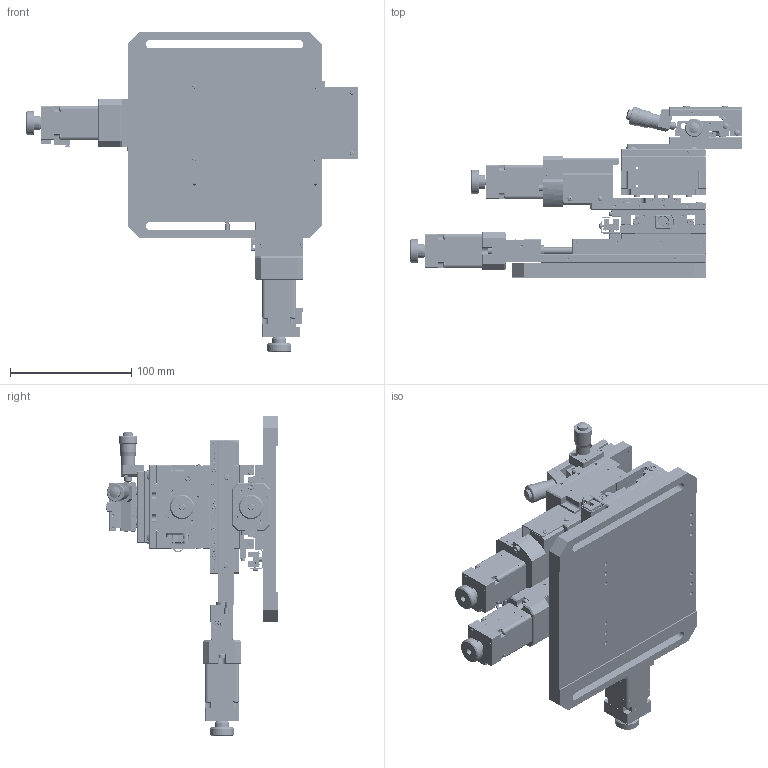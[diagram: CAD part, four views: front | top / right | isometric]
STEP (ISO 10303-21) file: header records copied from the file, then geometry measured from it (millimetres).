
FILE_DESCRIPTION (( 'STEP AP203' ), '1' );
FILE_NAME ('EW10-STL05.STEP', '2024-08-28T05:04:09', ( '' ), ( '' ), 'SwSTEP 2.0', 'SolidWorks 2017', '' );
FILE_SCHEMA (( 'CONFIG_CONTROL_DESIGN' ));
Length unit declared in the file: millimetre
Products named in the file (97): EW10-STL05-prt22; EW10-STL05-prt90; EW10-STL05-prt86; EW10-STL05-prt64; EW10-STL05-prt0; EW10-STL05-prt72; EW10-STL05-prt25; EW10-STL05-prt78; EW10-STL05-prt12; EW10-STL05-prt83; EW10-STL05-prt63; EW10-STL05-prt71; EW10-STL05-prt30; EW10-STL05-prt79; EW10-STL05-prt88; EW10-STL05-prt21; EW10-STL05-prt81; EW10-STL05-prt10; EW10-STL05-prt50; EW10-STL05-prt2; EW10-STL05-prt91; EW10-STL05-prt59; EW10-STL05-prt93; EW10-STL05-prt41; EW10-STL05-prt33; EW10-STL05-prt19; EW10-STL05-prt14; EW10-STL05-prt8; EW10-STL05-prt89; EW10-STL05-prt49; EW10-STL05-prt35; EW10-STL05-prt52; EW10-STL05-prt3; EW10-STL05-prt69; EW10-STL05-prt60; EW10-STL05-prt29; EW10-STL05-prt32; EW10-STL05-prt94; EW10-STL05-prt61; EW10-STL05-prt34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
Assembly tree (96 placements, depth 2):
  EW10-STL05
    EW10-STL05-prt0
    EW10-STL05-prt1
    EW10-STL05-prt2
    EW10-STL05-prt3
    EW10-STL05-prt4
    EW10-STL05-prt5
    EW10-STL05-prt6
    EW10-STL05-prt7
    EW10-STL05-prt8
    EW10-STL05-prt9
    EW10-STL05-prt10
    EW10-STL05-prt11
    EW10-STL05-prt12
    EW10-STL05-prt13
    EW10-STL05-prt14
    EW10-STL05-prt15
    EW10-STL05-prt16
    EW10-STL05-prt17
    EW10-STL05-prt18
    EW10-STL05-prt19
    EW10-STL05-prt20
    EW10-STL05-prt21
    EW10-STL05-prt22
    EW10-STL05-prt23
    EW10-STL05-prt24
    EW10-STL05-prt25
    EW10-STL05-prt26
    EW10-STL05-prt27
    EW10-STL05-prt28
    EW10-STL05-prt29
    EW10-STL05-prt30
    EW10-STL05-prt31
    EW10-STL05-prt32
    EW10-STL05-prt33
    EW10-STL05-prt34
    EW10-STL05-prt35
    EW10-STL05-prt36
    EW10-STL05-prt37
    EW10-STL05-prt38
    EW10-STL05-prt39
    EW10-STL05-prt40
    EW10-STL05-prt41
    EW10-STL05-prt42
    EW10-STL05-prt43
    EW10-STL05-prt44
    EW10-STL05-prt45
    EW10-STL05-prt46
    EW10-STL05-prt47
    EW10-STL05-prt48
    EW10-STL05-prt49
    EW10-STL05-prt50
    EW10-STL05-prt51
    EW10-STL05-prt52
    EW10-STL05-prt53
    EW10-STL05-prt54
    EW10-STL05-prt55
    EW10-STL05-prt56
    EW10-STL05-prt57
    EW10-STL05-prt58
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Bounding box: 273.9 x 141.4 x 263.9 mm (x, y, z)
Volume: 1017543.7 mm3; surface area: 442135.7 mm2
Topology: 96 solids, 334 shells, 12551 faces, 30727 edges, 18973 vertices
Faces by surface type: plane 7110, cylinder 3422, bspline 1471, cone 313, torus 171, sphere 64
Entity records: 390084 total; most frequent: CARTESIAN_POINT 86584, DIRECTION 61125, ORIENTED_EDGE 60152, EDGE_CURVE 30076, AXIS2_PLACEMENT_3D 20969, VECTOR 19187, LINE 19187, VERTEX_POINT 18958
